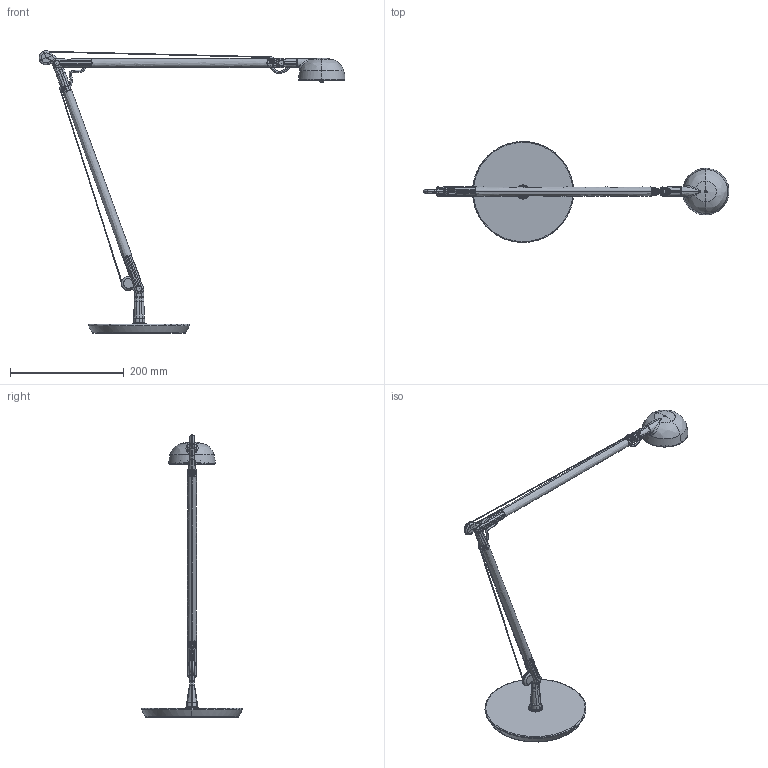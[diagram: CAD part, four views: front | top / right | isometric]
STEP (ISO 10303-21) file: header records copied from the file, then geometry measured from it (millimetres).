
FILE_DESCRIPTION(/* description */ (''),/* implementation_level */ '2;1');
FILE_NAME(/* name */ 'C068__~1',/* time_stamp */ '2024-07-09T17:00:09+02:00',/* author */ (''),/* organization */ (''),/* preprocessor_version */ 'ST-DEVELOPER v16.5',/* originating_system */ '',/* authorisation */ '');
FILE_SCHEMA (('AUTOMOTIVE_DESIGN'));
Products named in the file (1): Document
Bounding box: 539.21 x 177.74 x 497.51 mm (x, y, z)
Volume: 205494.9 mm3; surface area: 222474.9 mm2
Topology: 32 solids, 80 shells, 3849 faces, 8789 edges, 5565 vertices
Faces by surface type: bspline 2979, plane 870
Entity records: 177786 total; most frequent: CARTESIAN_POINT 125844, ORIENTED_EDGE 17223, EDGE_CURVE 8764, VERTEX_POINT 5563, B_SPLINE_CURVE_WITH_KNOTS 4534, EDGE_LOOP 4440, ADVANCED_FACE 3849, FACE_OUTER_BOUND 3849
